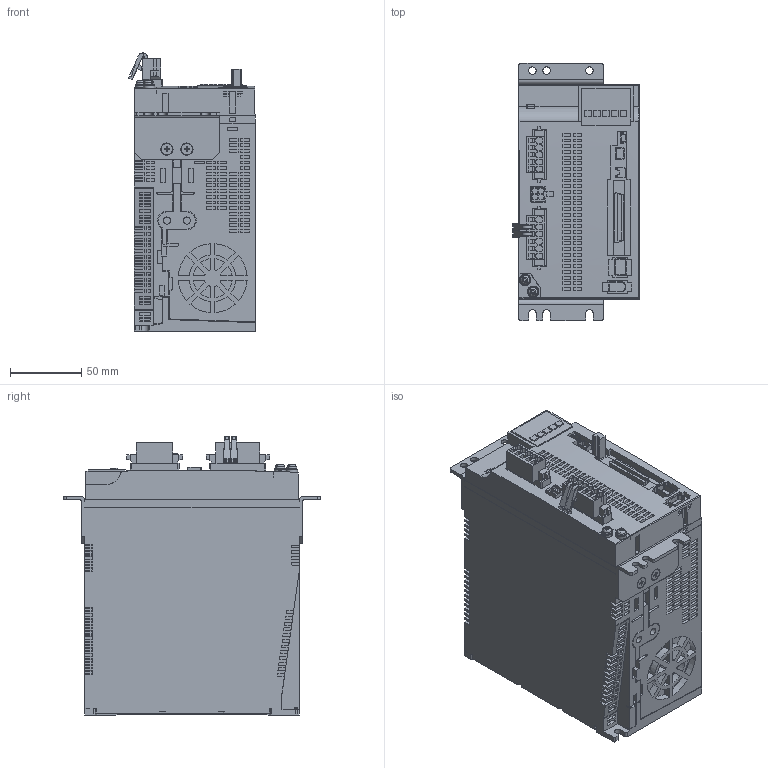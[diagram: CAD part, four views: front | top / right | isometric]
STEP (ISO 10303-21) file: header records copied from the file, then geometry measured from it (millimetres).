
FILE_DESCRIPTION( ( 'STEP AP214' ), ' ' );
FILE_NAME( 'p:/temp/worker_261/1028_4324/app_71_12016081613424216344874260eae72_000000_00_00_000000/format_0/MDDLT55SF.stp', '2016-08-16T11:42:59', ( '' ), ( '' ), ' ', 'PARTsolutions', ' ' );
FILE_SCHEMA( ( 'AUTOMOTIVE_DESIGN { 1 0 10303 214 1 1 1 1 }' ) );
Length unit declared in the file: millimetre
Products named in the file (1): _MDDLT55SF
Bounding box: 88.87 x 180 x 194.69 mm (x, y, z)
Volume: 2126889.7 mm3; surface area: 159742.6 mm2
Topology: 1 solids, 1 shells, 3574 faces, 9693 edges, 6432 vertices
Faces by surface type: plane 2312, cylinder 1235, cone 21, bspline 6
Full cylindrical faces by diameter (mm): 2.6 x1, 3 x2, 5 x4, 5.2 x4, 7.2 x2, 8 x6
Entity records: 141542 total; most frequent: CARTESIAN_POINT 20408, ORIENTED_EDGE 19306, DIRECTION 19272, EDGE_CURVE 9653, LINE 6952, VECTOR 6952, VERTEX_POINT 6426, AXIS2_PLACEMENT_3D 6160
